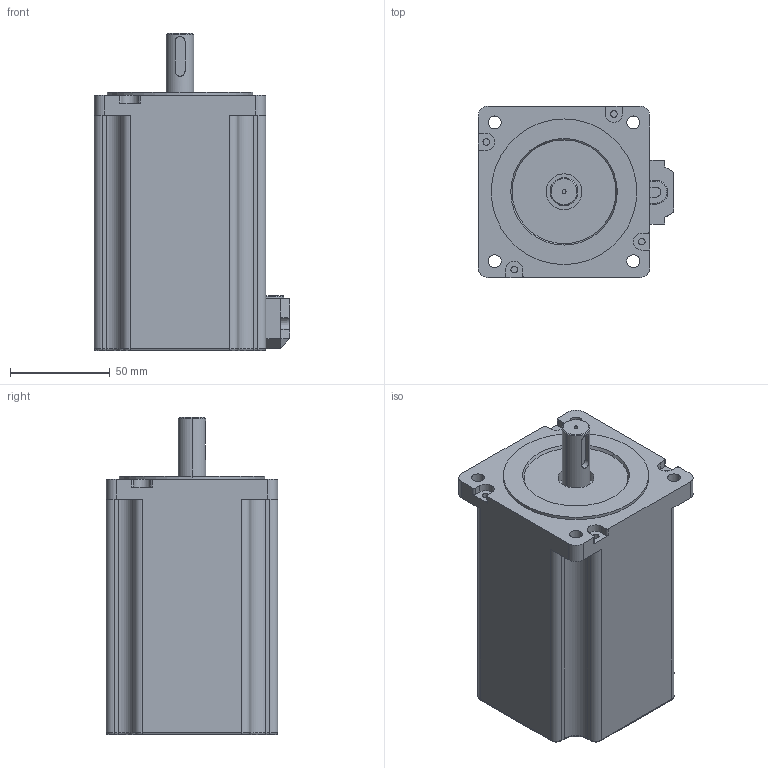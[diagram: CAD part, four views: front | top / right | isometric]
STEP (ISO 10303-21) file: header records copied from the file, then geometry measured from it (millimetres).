
FILE_DESCRIPTION((''),'2;1');
FILE_NAME('QL3913A-H','2021-11-19T09:31:28',('qingl'),(''),'CREO PARAMETRIC BY PTC INC, 2019224','CREO PARAMETRIC BY PTC INC, 2019224','');
FILE_SCHEMA(('CONFIG_CONTROL_DESIGN'));
Length unit declared in the file: millimetre
Products named in the file (1): QL3913A-H
Bounding box: 98 x 86 x 159 mm (x, y, z)
Volume: 867787.6 mm3; surface area: 60881.7 mm2
Topology: 1 solids, 1 shells, 322 faces, 881 edges, 578 vertices
Faces by surface type: cylinder 220, plane 73, torus 13, cone 8, bspline 8
Entity records: 15088 total; most frequent: CARTESIAN_POINT 7301, ORIENTED_EDGE 1762, DIRECTION 1412, EDGE_CURVE 881, VERTEX_POINT 578, AXIS2_PLACEMENT_3D 523, VECTOR 366, LINE 366
